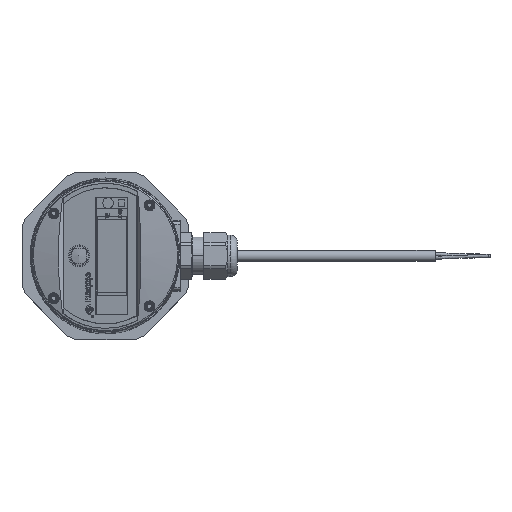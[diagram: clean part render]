
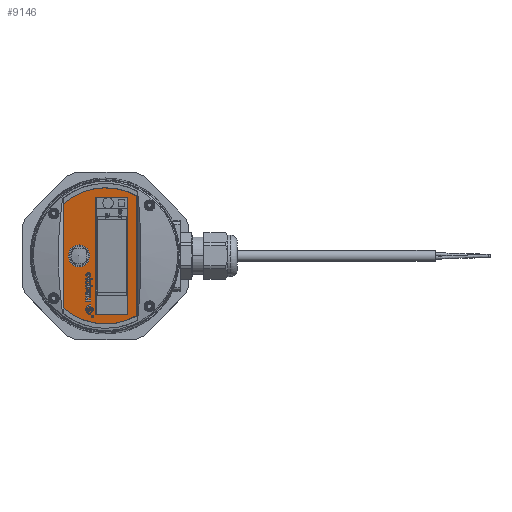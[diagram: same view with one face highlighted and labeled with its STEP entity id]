
A CAD part, top view. The second image highlights one B-rep face of the part: STEP entity #9146.
In plain terms, the highlighted planar face has unit normal (-0.259, 0, 0.966).
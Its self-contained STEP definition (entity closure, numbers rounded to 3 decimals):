
#6014=LINE('',#72021,#7502);
#6015=LINE('',#72026,#7503);
#6016=LINE('',#72029,#7504);
#6017=LINE('',#72032,#7505);
#6018=LINE('',#72034,#7506);
#6019=LINE('',#72036,#7507);
#7502=VECTOR('',#38223,1.);
#7503=VECTOR('',#38226,1.);
#7504=VECTOR('',#38229,1.);
#7505=VECTOR('',#38230,1.);
#7506=VECTOR('',#38231,1.);
#7507=VECTOR('',#38232,1.);
#9146=ADVANCED_FACE('',(#11093,#11094,#11095),#10436,.F.);
#10436=PLANE('',#33121);
#11093=FACE_BOUND('',#12450,.T.);
#11094=FACE_BOUND('',#12451,.T.);
#11095=FACE_BOUND('',#12452,.T.);
#12450=EDGE_LOOP('',(#18201));
#12451=EDGE_LOOP('',(#18202,#18203,#18204,#18205));
#12452=EDGE_LOOP('',(#18206,#18207,#18208,#18209));
#18201=ORIENTED_EDGE('',*,*,#28114,.T.);
#18202=ORIENTED_EDGE('',*,*,#28115,.T.);
#18203=ORIENTED_EDGE('',*,*,#28116,.T.);
#18204=ORIENTED_EDGE('',*,*,#28117,.T.);
#18205=ORIENTED_EDGE('',*,*,#28118,.T.);
#18206=ORIENTED_EDGE('',*,*,#28119,.T.);
#18207=ORIENTED_EDGE('',*,*,#28120,.T.);
#18208=ORIENTED_EDGE('',*,*,#28121,.T.);
#18209=ORIENTED_EDGE('',*,*,#28122,.T.);
#24257=VERTEX_POINT('',#72020);
#24258=VERTEX_POINT('',#72022);
#24259=VERTEX_POINT('',#72023);
#24260=VERTEX_POINT('',#72025);
#24261=VERTEX_POINT('',#72027);
#24262=VERTEX_POINT('',#72030);
#24263=VERTEX_POINT('',#72031);
#24264=VERTEX_POINT('',#72033);
#24265=VERTEX_POINT('',#72035);
#28114=EDGE_CURVE('',#24257,#24257,#31047,.T.);
#28115=EDGE_CURVE('',#24258,#24259,#6014,.T.);
#28116=EDGE_CURVE('',#24259,#24260,#31048,.T.);
#28117=EDGE_CURVE('',#24260,#24261,#6015,.T.);
#28118=EDGE_CURVE('',#24261,#24258,#31049,.T.);
#28119=EDGE_CURVE('',#24262,#24263,#6016,.T.);
#28120=EDGE_CURVE('',#24263,#24264,#6017,.T.);
#28121=EDGE_CURVE('',#24264,#24265,#6018,.T.);
#28122=EDGE_CURVE('',#24265,#24262,#6019,.T.);
#31047=CIRCLE('',#33118,5.);
#31048=CIRCLE('',#33119,30.95);
#31049=CIRCLE('',#33120,30.95);
#33118=AXIS2_PLACEMENT_3D('',#72019,#38221,#38222);
#33119=AXIS2_PLACEMENT_3D('',#72024,#38224,#38225);
#33120=AXIS2_PLACEMENT_3D('',#72028,#38227,#38228);
#33121=AXIS2_PLACEMENT_3D('',#72037,#38233,#38234);
#38221=DIRECTION('',(0.259,0.,-0.966));
#38222=DIRECTION('',(0.966,0.,0.259));
#38223=DIRECTION('',(0.,1.,0.));
#38224=DIRECTION('',(-0.259,0.,0.966));
#38225=DIRECTION('',(0.,-1.,0.));
#38226=DIRECTION('',(0.,-1.,0.));
#38227=DIRECTION('',(-0.259,0.,0.966));
#38228=DIRECTION('',(0.,-1.,0.));
#38229=DIRECTION('',(0.,1.,0.));
#38230=DIRECTION('',(0.966,0.,0.259));
#38231=DIRECTION('',(0.,-1.,0.));
#38232=DIRECTION('',(-0.966,0.,-0.259));
#38233=DIRECTION('',(0.259,0.,-0.966));
#38234=DIRECTION('',(0.966,0.,0.259));
#72019=CARTESIAN_POINT('',(-12.048,0.,38.868));
#72020=CARTESIAN_POINT('',(-7.219,0.,40.162));
#72021=CARTESIAN_POINT('',(14.322,27.182,45.934));
#72022=CARTESIAN_POINT('',(14.322,-27.182,45.934));
#72023=CARTESIAN_POINT('',(14.322,27.182,45.934));
#72024=CARTESIAN_POINT('',(0.026,0.,42.103));
#72025=CARTESIAN_POINT('',(-19.196,23.704,36.953));
#72026=CARTESIAN_POINT('',(-19.196,-23.704,36.953));
#72027=CARTESIAN_POINT('',(-19.196,-23.704,36.953));
#72028=CARTESIAN_POINT('',(0.026,0.,42.103));
#72029=CARTESIAN_POINT('',(-4.321,0.,40.939));
#72030=CARTESIAN_POINT('',(-4.321,-26.5,40.939));
#72031=CARTESIAN_POINT('',(-4.321,26.5,40.939));
#72032=CARTESIAN_POINT('',(0.026,26.5,42.103));
#72033=CARTESIAN_POINT('',(10.168,26.5,44.821));
#72034=CARTESIAN_POINT('',(10.168,0.,44.821));
#72035=CARTESIAN_POINT('',(10.168,-26.5,44.821));
#72036=CARTESIAN_POINT('',(0.026,-26.5,42.103));
#72037=CARTESIAN_POINT('',(0.026,0.,42.103));
